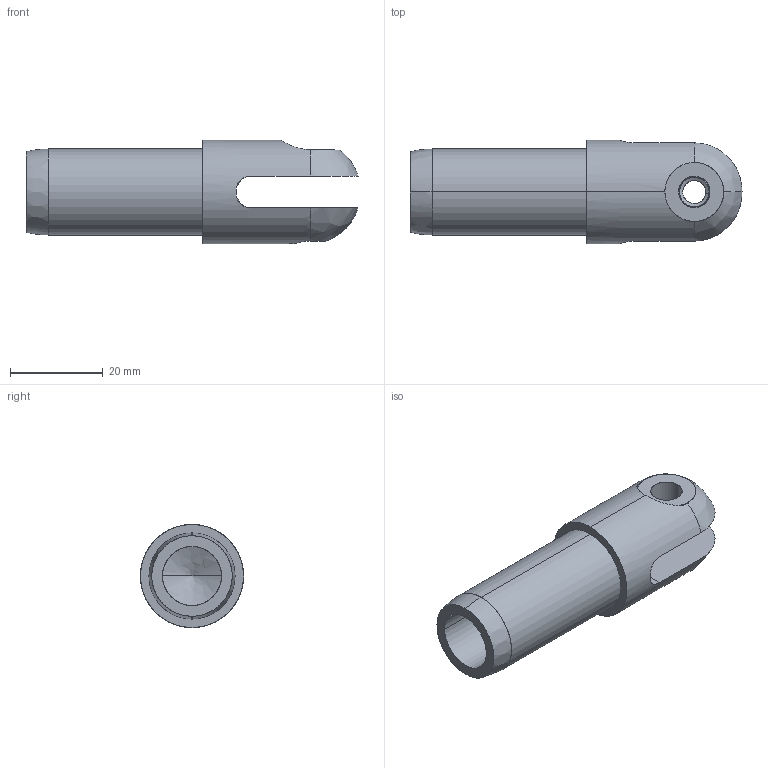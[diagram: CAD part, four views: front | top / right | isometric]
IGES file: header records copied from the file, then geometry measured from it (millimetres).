
Start section: SolidWorks IGES file using analytic representation for surfaces
Global section: file name: \\SERVER3\Design\_New Design Drive Folder List\_Design Vault\AAI\Modular Round Tube Connectors\Solidworks Models\STP Files\12202013\0.750 Inch Modular Connectors\DRP-002-0526-00.IGS; native system: SolidWorks 2013; preprocessor: SolidWorks 2013; author: tbraun; date: 131220.123413; units: inch
Bounding box: 71.54 x 22.23 x 22.23 mm (x, y, z)
Surface area: 7712.8 mm2 (no closed solid volume)
Topology: 0 solids, 0 shells, 38 faces, 656 edges, 654 vertices
Faces by surface type: bspline 22, revolution 16
